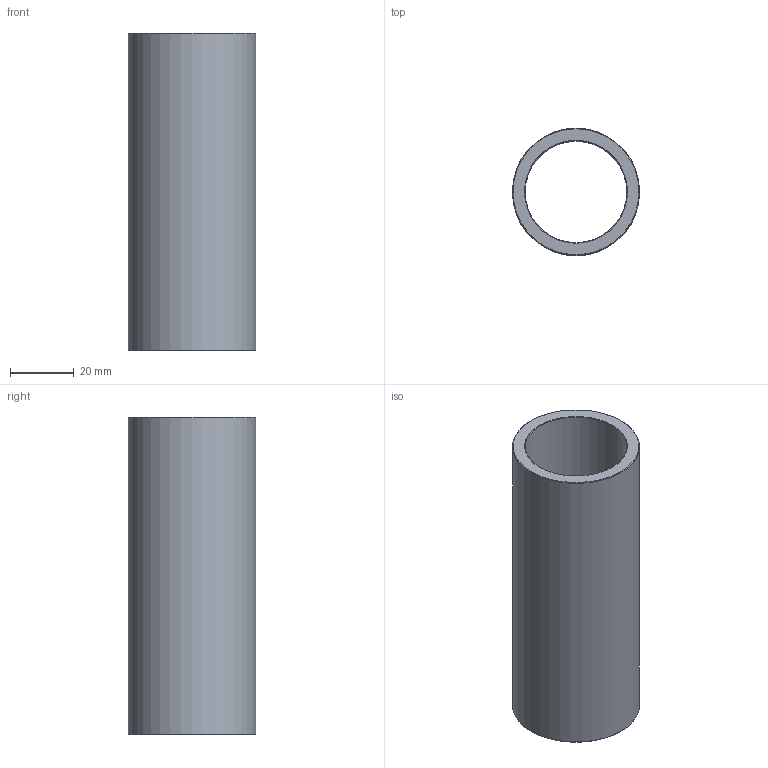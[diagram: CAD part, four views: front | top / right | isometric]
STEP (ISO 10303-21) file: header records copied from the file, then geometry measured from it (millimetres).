
FILE_DESCRIPTION(('STEP AP203'),'1');
FILE_NAME('C:/Users/Rodrigo/Desktop/GA4.032.100-1.step','2016-11-07T17:21:58',(' '),(' '),'Spatial InterOp 3D',' ',' ');
FILE_SCHEMA(('CONFIG_CONTROL_DESIGN'));
Length unit declared in the file: millimetre
Products named in the file (1): 1
Bounding box: 40 x 40 x 100 mm (x, y, z)
Volume: 45229.9 mm3; surface area: 23471.2 mm2
Topology: 1 solids, 1 shells, 8 faces, 14 edges, 8 vertices
Faces by surface type: cone 4, cylinder 2, plane 2
Full cylindrical faces by diameter (mm): 32 x1, 40 x1
Entity records: 212 total; most frequent: DIRECTION 34, CARTESIAN_POINT 25, AXIS2_PLACEMENT_3D 17, EDGE_LOOP 16, ORIENTED_EDGE 16, FACE_OUTER_BOUND 10, ADVANCED_FACE 8, EDGE_CURVE 8
